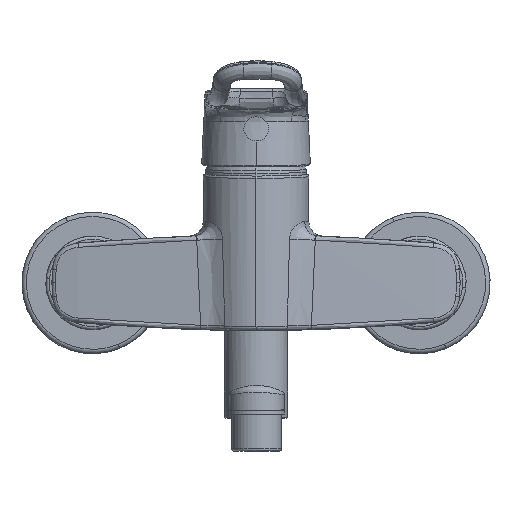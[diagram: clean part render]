
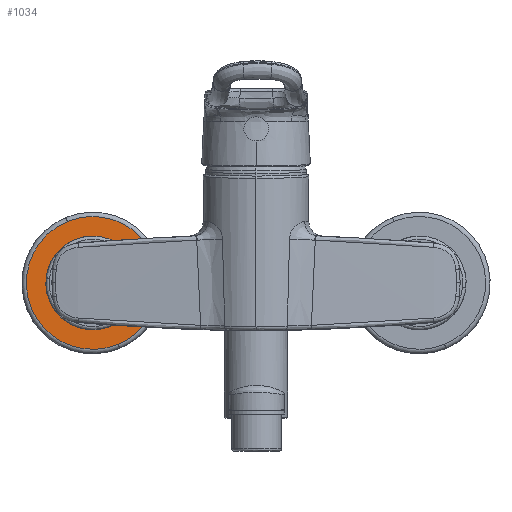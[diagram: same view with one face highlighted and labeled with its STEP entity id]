
A CAD part, top view. The second image highlights one B-rep face of the part: STEP entity #1034.
In plain terms, the highlighted planar face has unit normal (0, 0, 1).
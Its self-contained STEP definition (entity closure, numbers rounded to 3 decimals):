
#595 = CARTESIAN_POINT ( 'NONE',  ( -63.353, -28.189, -26. ) ) ;
#649 = DIRECTION ( 'NONE',  ( 0.382, -0.924, 0. ) ) ;
#1034 = ADVANCED_FACE ( 'NONE', ( #3411, #4492 ), #3359, .T. ) ;
#2569 = VERTEX_POINT ( 'NONE', #595 ) ;
#2853 = DIRECTION ( 'NONE',  ( 0., 0., 1. ) ) ;
#3213 = CIRCLE ( 'NONE', #12706, 30.5 ) ;
#3359 = PLANE ( 'NONE',  #19559 ) ;
#3411 = FACE_BOUND ( 'NONE', #12744, .T. ) ;
#4492 = FACE_OUTER_BOUND ( 'NONE', #23306, .T. ) ;
#5609 = ORIENTED_EDGE ( 'NONE', *, *, #21674, .T. ) ;
#6240 = DIRECTION ( 'NONE',  ( 0., 0., 1. ) ) ;
#7360 = AXIS2_PLACEMENT_3D ( 'NONE', #10326, #23179, #12167 ) ;
#8108 = ORIENTED_EDGE ( 'NONE', *, *, #19446, .T. ) ;
#9588 = AXIS2_PLACEMENT_3D ( 'NONE', #22617, #11619, #649 ) ;
#9638 = CIRCLE ( 'NONE', #9588, 30.5 ) ;
#10199 = EDGE_CURVE ( 'NONE', #22556, #11181, #14802, .T. ) ;
#10326 = CARTESIAN_POINT ( 'NONE',  ( -74.999, 0., -26. ) ) ;
#10759 = CARTESIAN_POINT ( 'NONE',  ( -74.999, 0., -26. ) ) ;
#10888 = VERTEX_POINT ( 'NONE', #11491 ) ;
#11181 = VERTEX_POINT ( 'NONE', #12417 ) ;
#11491 = CARTESIAN_POINT ( 'NONE',  ( -86.646, 28.189, -26. ) ) ;
#11619 = DIRECTION ( 'NONE',  ( 0., 0., 1. ) ) ;
#12167 = DIRECTION ( 'NONE',  ( 1., 0., 0. ) ) ;
#12417 = CARTESIAN_POINT ( 'NONE',  ( -94.87, -8.21, -26. ) ) ;
#12597 = DIRECTION ( 'NONE',  ( 1., 0., 0. ) ) ;
#12706 = AXIS2_PLACEMENT_3D ( 'NONE', #17223, #6240, #19068 ) ;
#12744 = EDGE_LOOP ( 'NONE', ( #20696, #21316 ) ) ;
#14802 = CIRCLE ( 'NONE', #7360, 21.5 ) ;
#15328 = CARTESIAN_POINT ( 'NONE',  ( -55.128, 8.21, -26. ) ) ;
#15699 = DIRECTION ( 'NONE',  ( 0.382, -0.924, 0. ) ) ;
#16213 = CIRCLE ( 'NONE', #19913, 21.5 ) ;
#16576 = EDGE_CURVE ( 'NONE', #11181, #22556, #16213, .T. ) ;
#17223 = CARTESIAN_POINT ( 'NONE',  ( -74.999, 0., -26. ) ) ;
#19068 = DIRECTION ( 'NONE',  ( 0.382, -0.924, 0. ) ) ;
#19446 = EDGE_CURVE ( 'NONE', #2569, #10888, #9638, .T. ) ;
#19559 = AXIS2_PLACEMENT_3D ( 'NONE', #19810, #2853, #15699 ) ;
#19810 = CARTESIAN_POINT ( 'NONE',  ( -74.999, 0., -26. ) ) ;
#19913 = AXIS2_PLACEMENT_3D ( 'NONE', #10759, #23607, #12597 ) ;
#20696 = ORIENTED_EDGE ( 'NONE', *, *, #16576, .F. ) ;
#21316 = ORIENTED_EDGE ( 'NONE', *, *, #10199, .F. ) ;
#21674 = EDGE_CURVE ( 'NONE', #10888, #2569, #3213, .T. ) ;
#22556 = VERTEX_POINT ( 'NONE', #15328 ) ;
#22617 = CARTESIAN_POINT ( 'NONE',  ( -74.999, 0., -26. ) ) ;
#23179 = DIRECTION ( 'NONE',  ( 0., 0., 1. ) ) ;
#23306 = EDGE_LOOP ( 'NONE', ( #8108, #5609 ) ) ;
#23607 = DIRECTION ( 'NONE',  ( 0., 0., 1. ) ) ;
